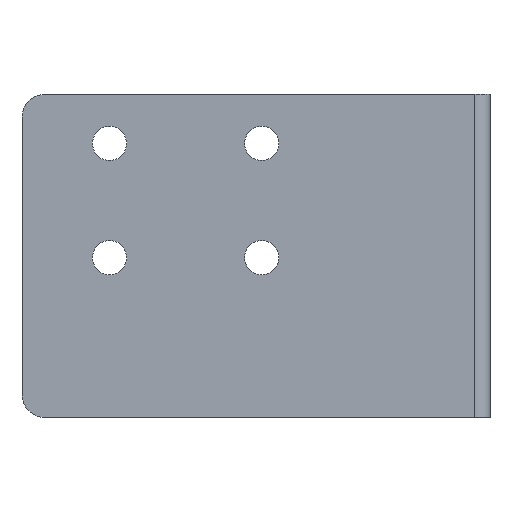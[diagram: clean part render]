
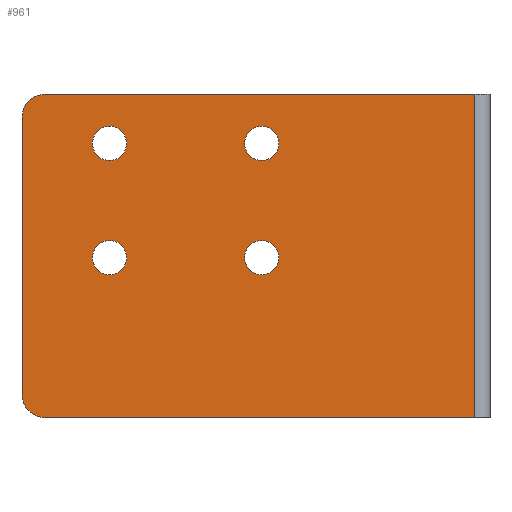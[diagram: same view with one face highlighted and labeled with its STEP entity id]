
A CAD part, top view. The second image highlights one B-rep face of the part: STEP entity #961.
In plain terms, the highlighted planar face has unit normal (0, 0, 1).
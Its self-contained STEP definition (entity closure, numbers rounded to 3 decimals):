
#17=CARTESIAN_POINT('',(-28.5,-6.45,0.));
#18=DIRECTION('',(0.,0.,1.));
#19=DIRECTION('',(-1.,0.,0.));
#20=AXIS2_PLACEMENT_3D('',#17,#18,#19);
#26=CARTESIAN_POINT('',(-28.5,-6.45,0.));
#27=DIRECTION('',(0.,0.,1.));
#28=DIRECTION('',(1.,0.,0.));
#29=AXIS2_PLACEMENT_3D('',#26,#27,#28);
#34=CARTESIAN_POINT('',(-48.5,-6.45,0.));
#35=DIRECTION('',(0.,0.,1.));
#36=DIRECTION('',(-1.,0.,0.));
#37=AXIS2_PLACEMENT_3D('',#34,#35,#36);
#42=CARTESIAN_POINT('',(-48.5,-6.45,0.));
#43=DIRECTION('',(0.,0.,1.));
#44=DIRECTION('',(1.,0.,0.));
#45=AXIS2_PLACEMENT_3D('',#42,#43,#44);
#50=CARTESIAN_POINT('',(-28.5,-21.45,0.));
#51=DIRECTION('',(0.,0.,1.));
#52=DIRECTION('',(-1.,0.,0.));
#53=AXIS2_PLACEMENT_3D('',#50,#51,#52);
#58=CARTESIAN_POINT('',(-28.5,-21.45,0.));
#59=DIRECTION('',(0.,0.,1.));
#60=DIRECTION('',(1.,0.,0.));
#61=AXIS2_PLACEMENT_3D('',#58,#59,#60);
#66=CARTESIAN_POINT('',(-48.5,-21.45,0.));
#67=DIRECTION('',(0.,0.,1.));
#68=DIRECTION('',(-1.,0.,0.));
#69=AXIS2_PLACEMENT_3D('',#66,#67,#68);
#74=CARTESIAN_POINT('',(-48.5,-21.45,0.));
#75=DIRECTION('',(0.,0.,1.));
#76=DIRECTION('',(1.,0.,0.));
#77=AXIS2_PLACEMENT_3D('',#74,#75,#76);
#82=CARTESIAN_POINT('',(-57.,-39.45,0.));
#83=DIRECTION('',(0.,0.,-1.));
#84=DIRECTION('',(0.,-1.,0.));
#85=AXIS2_PLACEMENT_3D('',#82,#83,#84);
#90=DIRECTION('',(0.,-1.,0.));
#91=VECTOR('',#90,36.45);
#92=CARTESIAN_POINT('',(-60.,-3.,0.));
#93=LINE('',#92,#91);
#97=CARTESIAN_POINT('',(-57.,-3.,0.));
#98=DIRECTION('',(0.,0.,-1.));
#99=DIRECTION('',(-1.,0.,0.));
#100=AXIS2_PLACEMENT_3D('',#97,#98,#99);
#375=DIRECTION('',(-1.,0.,0.));
#376=VECTOR('',#375,56.5);
#377=CARTESIAN_POINT('',(-0.5,-42.45,0.));
#378=LINE('',#377,#376);
#411=DIRECTION('',(0.,1.,0.));
#412=VECTOR('',#411,42.45);
#413=CARTESIAN_POINT('',(-0.5,-42.45,0.));
#414=LINE('',#413,#412);
#711=DIRECTION('',(1.,0.,0.));
#712=VECTOR('',#711,56.5);
#713=CARTESIAN_POINT('',(-57.,0.,0.));
#714=LINE('',#713,#712);
#794=CARTESIAN_POINT('',(-0.5,0.,0.));
#795=VERTEX_POINT('',#794);
#796=CARTESIAN_POINT('',(-0.5,-42.45,0.));
#797=VERTEX_POINT('',#796);
#806=CARTESIAN_POINT('',(-30.75,-6.45,0.));
#807=CARTESIAN_POINT('',(-26.25,-6.45,0.));
#808=VERTEX_POINT('',#806);
#809=VERTEX_POINT('',#807);
#810=CARTESIAN_POINT('',(-50.75,-6.45,0.));
#811=CARTESIAN_POINT('',(-46.25,-6.45,0.));
#812=VERTEX_POINT('',#810);
#813=VERTEX_POINT('',#811);
#814=CARTESIAN_POINT('',(-30.75,-21.45,0.));
#815=CARTESIAN_POINT('',(-26.25,-21.45,0.));
#816=VERTEX_POINT('',#814);
#817=VERTEX_POINT('',#815);
#818=CARTESIAN_POINT('',(-50.75,-21.45,0.));
#819=CARTESIAN_POINT('',(-46.25,-21.45,0.));
#820=VERTEX_POINT('',#818);
#821=VERTEX_POINT('',#819);
#902=CARTESIAN_POINT('',(-57.,-42.45,0.));
#903=CARTESIAN_POINT('',(-60.,-39.45,0.));
#904=VERTEX_POINT('',#902);
#905=VERTEX_POINT('',#903);
#910=CARTESIAN_POINT('',(-60.,-3.,0.));
#911=CARTESIAN_POINT('',(-57.,0.,0.));
#912=VERTEX_POINT('',#910);
#913=VERTEX_POINT('',#911);
#918=CARTESIAN_POINT('',(0.,0.,0.));
#919=DIRECTION('',(0.,0.,1.));
#920=DIRECTION('',(1.,0.,0.));
#921=AXIS2_PLACEMENT_3D('',#918,#919,#920);
#922=PLANE('',#921);
#924=ORIENTED_EDGE('',*,*,#923,.T.);
#926=ORIENTED_EDGE('',*,*,#925,.F.);
#928=ORIENTED_EDGE('',*,*,#927,.T.);
#930=ORIENTED_EDGE('',*,*,#929,.T.);
#932=ORIENTED_EDGE('',*,*,#931,.F.);
#934=ORIENTED_EDGE('',*,*,#933,.T.);
#935=EDGE_LOOP('',(#924,#926,#928,#930,#932,#934));
#936=FACE_OUTER_BOUND('',#935,.F.);
#938=ORIENTED_EDGE('',*,*,#937,.T.);
#940=ORIENTED_EDGE('',*,*,#939,.T.);
#941=EDGE_LOOP('',(#938,#940));
#942=FACE_BOUND('',#941,.F.);
#944=ORIENTED_EDGE('',*,*,#943,.T.);
#946=ORIENTED_EDGE('',*,*,#945,.T.);
#947=EDGE_LOOP('',(#944,#946));
#948=FACE_BOUND('',#947,.F.);
#950=ORIENTED_EDGE('',*,*,#949,.T.);
#952=ORIENTED_EDGE('',*,*,#951,.T.);
#953=EDGE_LOOP('',(#950,#952));
#954=FACE_BOUND('',#953,.F.);
#956=ORIENTED_EDGE('',*,*,#955,.T.);
#958=ORIENTED_EDGE('',*,*,#957,.T.);
#959=EDGE_LOOP('',(#956,#958));
#960=FACE_BOUND('',#959,.F.);
#21=CIRCLE('',#20,2.25);
#30=CIRCLE('',#29,2.25);
#38=CIRCLE('',#37,2.25);
#46=CIRCLE('',#45,2.25);
#54=CIRCLE('',#53,2.25);
#62=CIRCLE('',#61,2.25);
#70=CIRCLE('',#69,2.25);
#78=CIRCLE('',#77,2.25);
#86=CIRCLE('',#85,3.);
#101=CIRCLE('',#100,3.);
#923=EDGE_CURVE('',#904,#905,#86,.T.);
#925=EDGE_CURVE('',#912,#905,#93,.T.);
#927=EDGE_CURVE('',#912,#913,#101,.T.);
#929=EDGE_CURVE('',#913,#795,#714,.T.);
#931=EDGE_CURVE('',#797,#795,#414,.T.);
#933=EDGE_CURVE('',#797,#904,#378,.T.);
#937=EDGE_CURVE('',#812,#813,#38,.T.);
#939=EDGE_CURVE('',#813,#812,#46,.T.);
#943=EDGE_CURVE('',#816,#817,#54,.T.);
#945=EDGE_CURVE('',#817,#816,#62,.T.);
#949=EDGE_CURVE('',#820,#821,#70,.T.);
#951=EDGE_CURVE('',#821,#820,#78,.T.);
#955=EDGE_CURVE('',#808,#809,#21,.T.);
#957=EDGE_CURVE('',#809,#808,#30,.T.);
#961=ADVANCED_FACE('',(#936,#942,#948,#954,#960),#922,.T.);
